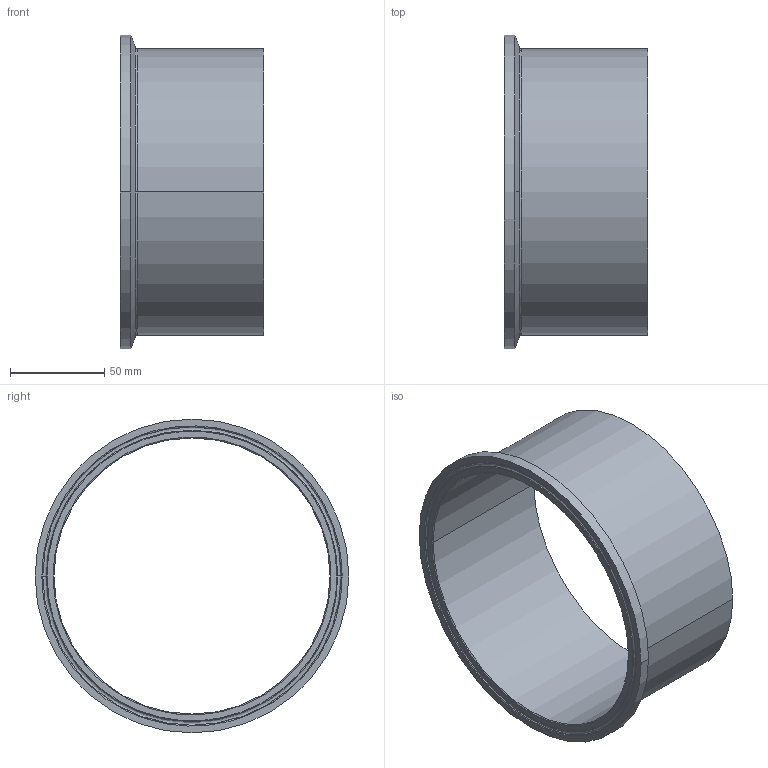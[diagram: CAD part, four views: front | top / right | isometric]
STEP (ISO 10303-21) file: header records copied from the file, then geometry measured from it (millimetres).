
FILE_DESCRIPTION (( 'STEP AP214' ), '1' );
FILE_NAME ('TEG14AM76L6.0.STEP', '2016-05-23T03:57:17', ( 'eran' ), ( '' ), 'SwSTEP 2.0', 'SolidWorks 2016', '' );
FILE_SCHEMA (( 'AUTOMOTIVE_DESIGN' ));
Length unit declared in the file: millimetre
Products named in the file (1): TEG14AM76L6.0
Bounding box: 76.2 x 166.88 x 166.88 mm (x, y, z)
Volume: 123571.8 mm3; surface area: 80853.4 mm2
Topology: 1 solids, 1 shells, 25 faces, 62 edges, 40 vertices
Faces by surface type: bspline 10, cylinder 6, cone 6, plane 3
Entity records: 1881 total; most frequent: CARTESIAN_POINT 1256, DIRECTION 132, ORIENTED_EDGE 124, EDGE_CURVE 62, AXIS2_PLACEMENT_3D 60, CIRCLE 44, VERTEX_POINT 40, EDGE_LOOP 28
